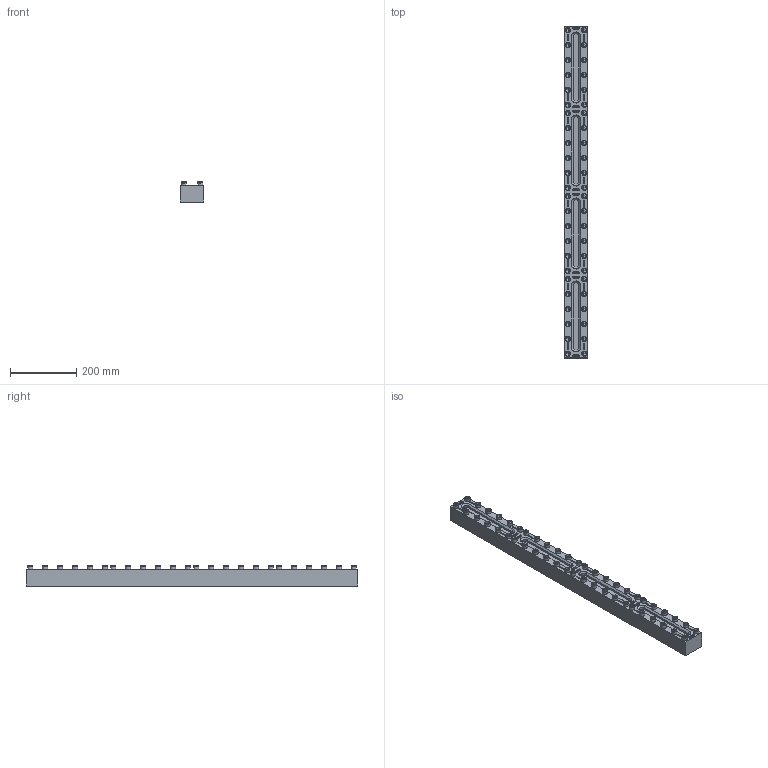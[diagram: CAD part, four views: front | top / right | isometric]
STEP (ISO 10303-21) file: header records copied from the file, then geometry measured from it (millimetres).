
FILE_DESCRIPTION(/* description */ (''),/* implementation_level */ '2;1');
FILE_NAME(/* name */ 'W:\Konstruktion_ACI\330\_Zeichnungen\STEP\ACI-330-1000-16.stp',/* time_stamp */ '2022-03-01T17:30:24+01:00',/* author */ ('koslowksi'),/* organization */ (''),/* preprocessor_version */ 'ST-DEVELOPER v16.1',/* originating_system */ 'Autodesk Inventor 2016',/* authorisation */ '');
FILE_SCHEMA (('AUTOMOTIVE_DESIGN { 1 0 10303 214 3 1 1 }'));
Products named in the file (1): ACI-330-1000-16.stp
Bounding box: 70 x 1000 x 60.9 mm (x, y, z)
Volume: 3252300.3 mm3; surface area: 319359.1 mm2
Topology: 1 solids, 1 shells, 4966 faces, 13460 edges, 8952 vertices
Faces by surface type: plane 3526, bspline 1272, cylinder 64, cone 56, torus 48
Full cylindrical faces by diameter (mm): 16 x48
Entity records: 163712 total; most frequent: CARTESIAN_POINT 44155, ORIENTED_EDGE 26440, DIRECTION 17962, EDGE_CURVE 13220, LINE 10204, VECTOR 10204, VERTEX_POINT 8856, EDGE_LOOP 5566
